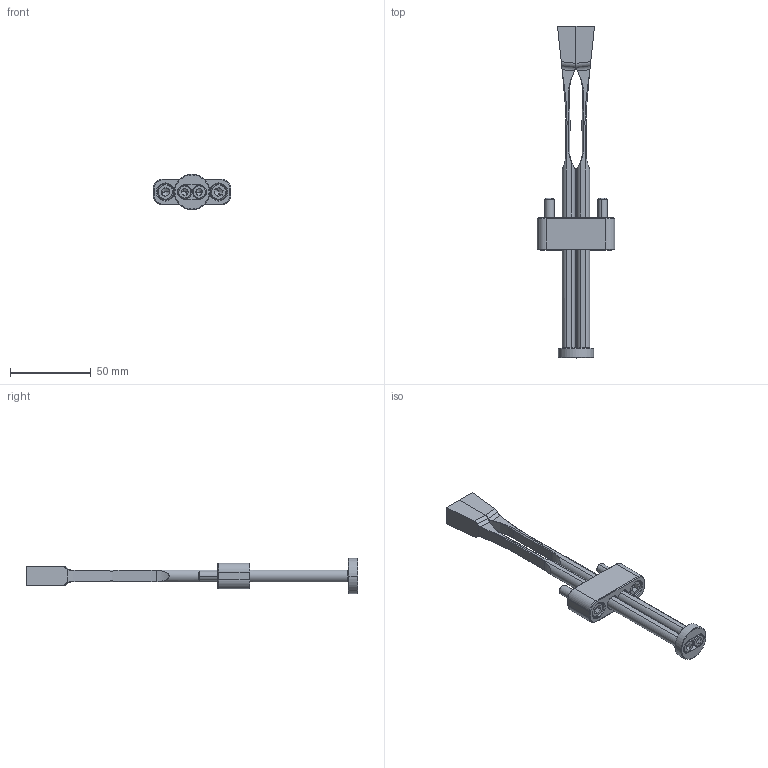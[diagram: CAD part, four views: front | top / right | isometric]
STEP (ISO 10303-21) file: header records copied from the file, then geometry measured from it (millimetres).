
FILE_DESCRIPTION (( 'STEP AP203' ), '1' );
FILE_NAME ('FCDA11X12L200.step', '2015-12-11T17:25:38', ( '' ), ( '' ), 'SwSTEP 2.0', 'SolidWorks 2014', '' );
FILE_SCHEMA (( 'CONFIG_CONTROL_DESIGN' ));
Length unit declared in the file: millimetre
Products named in the file (6): LOW-HD-SHCS-M5X16; FCDBG-12; SHCS-M6X25; FCDA11X12L200; FCDHP-5; FC11X12L200
Assembly tree (8 placements, depth 2):
  FCDA11X12L200
    FC11X12L200  x2
    FCDHP-5
    FCDBG-12
    SHCS-M6X25  x2
    LOW-HD-SHCS-M5X16  x2
Bounding box: 47.96 x 205.99 x 22 mm (x, y, z)
Volume: 34616.7 mm3; surface area: 20825.3 mm2
Topology: 8 solids, 8 shells, 270 faces, 615 edges, 362 vertices
Faces by surface type: plane 115, cylinder 71, cone 68, bspline 8, torus 8
Entity records: 6120 total; most frequent: CARTESIAN_POINT 1434, DIRECTION 866, ORIENTED_EDGE 800, EDGE_CURVE 400, AXIS2_PLACEMENT_3D 333, VERTEX_POINT 239, VECTOR 200, LINE 200
